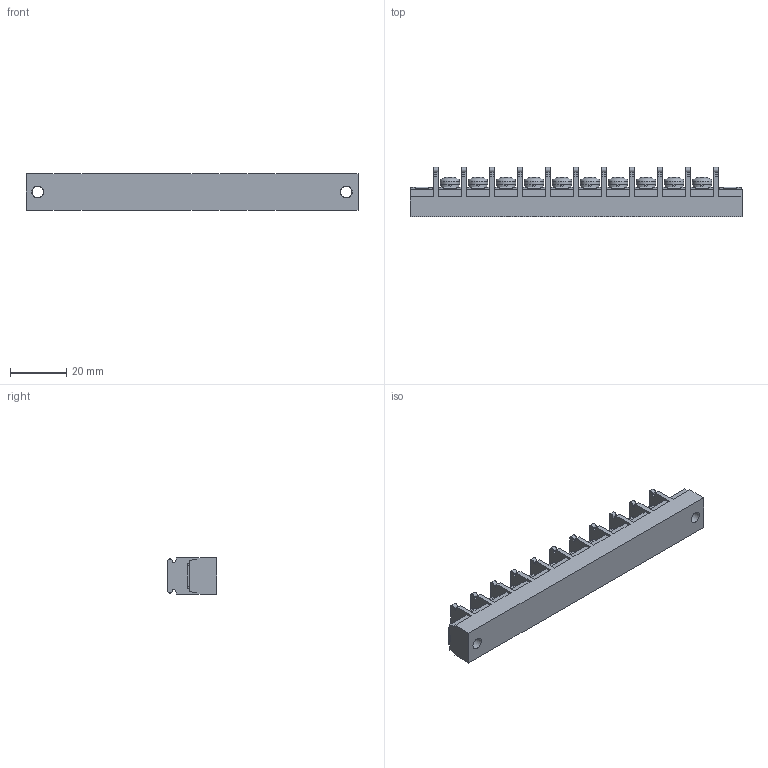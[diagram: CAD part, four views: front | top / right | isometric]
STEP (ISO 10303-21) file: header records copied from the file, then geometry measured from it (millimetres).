
FILE_DESCRIPTION(/* description */ ('Alibre Inc.'),/* implementation_level */ '2;1');
FILE_NAME(/* name */ 'export0',/* time_stamp */ '2015-10-17T18:47:11+09:00',/* author */ (''),/* organization */ (''),/* preprocessor_version */ 'ST-DEVELOPER v14',/* originating_system */ 'Alibre',/* authorisation */ '');
FILE_SCHEMA (('CONFIG_CONTROL_DESIGN'));
Length unit declared in the file: centimetre
Products named in the file (1): ID_1
Bounding box: 118.4 x 17.5 x 13 mm (x, y, z)
Volume: 17433.8 mm3; surface area: 9874 mm2
Topology: 1 solids, 17 shells, 1020 faces, 2798 edges, 1856 vertices
Faces by surface type: plane 766, bspline 104, cylinder 80, cone 40, torus 20, sphere 10
Full cylindrical faces by diameter (mm): 4 x12, 4.2 x2, 6.5 x10, 7 x10
Entity records: 31283 total; most frequent: CARTESIAN_POINT 6833, ORIENTED_EDGE 5444, DIRECTION 3962, EDGE_CURVE 2722, VECTOR 1994, LINE 1994, VERTEX_POINT 1824, AXIS2_PLACEMENT_3D 1367
